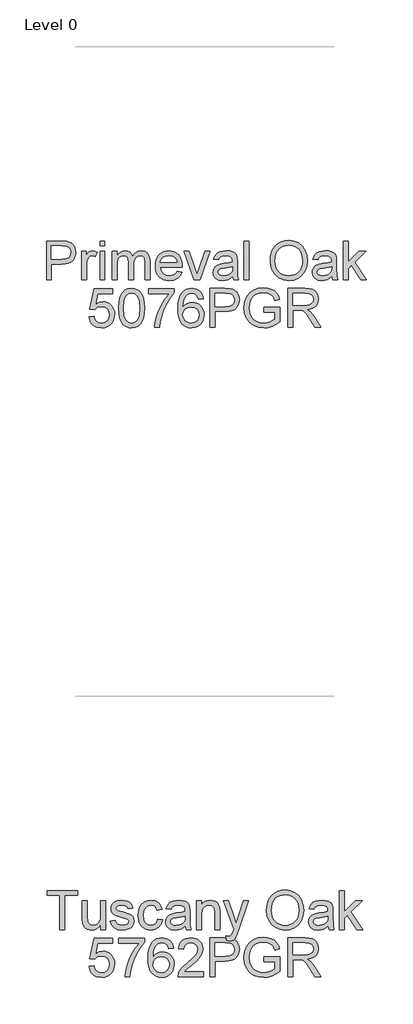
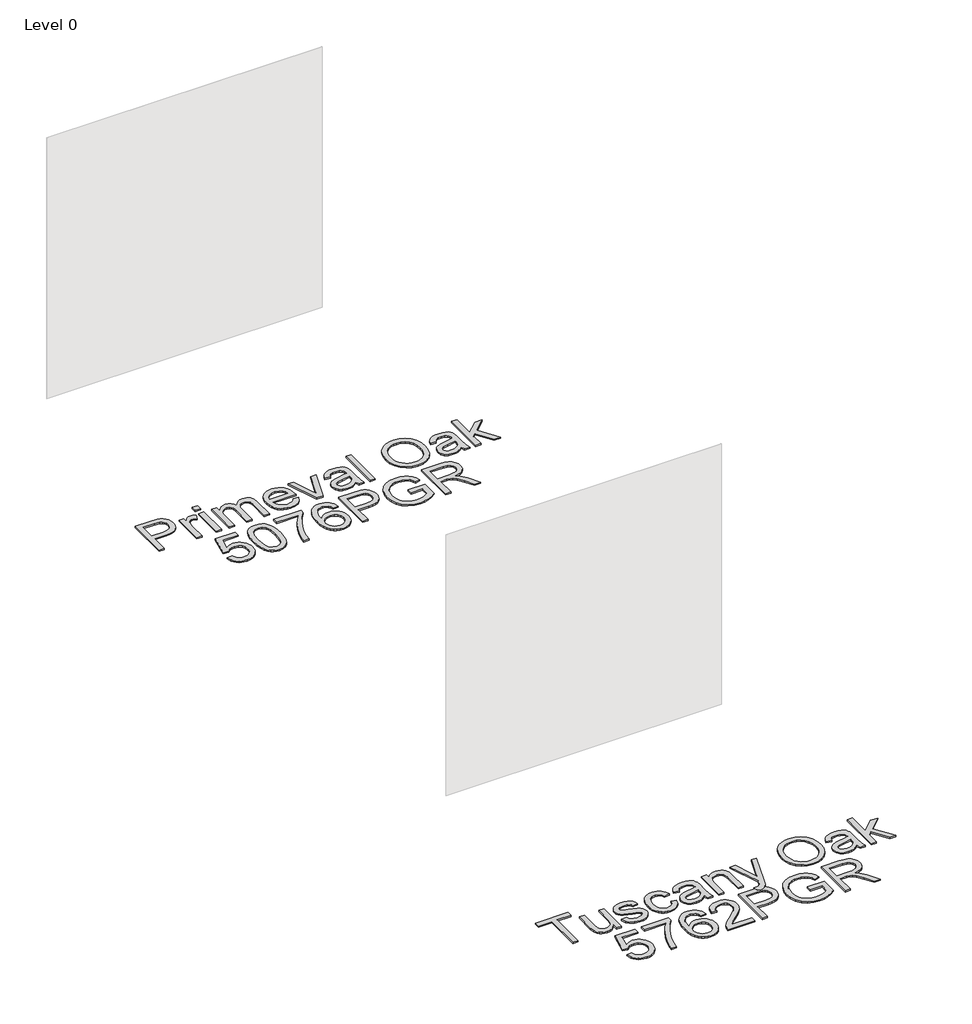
# One storey, part 18 of 43: 2 proxies.
"""IFC4 building model written with IfcOpenShell, lengths in millimetres."""

from ifc_helpers import new_model, si_unit, origin, origin_with_axes, place, context, project, spatial, polyline, outline, extrude, element, save

model = new_model("IFC4")

# Units and contexts
model_context = context("Model", 3, world=origin())
ifc_project = project(units=[si_unit("LENGTHUNIT", "METRE", prefix="MILLI")], contexts=[model_context])

# Site, building, storey
site = spatial("IfcSite", under=ifc_project)
building = spatial("IfcBuilding", under=site)
storey = spatial("IfcBuildingStorey", under=building, Name="Level 0", Elevation=0.0)

# Proxies
placement = place(None, origin())
element("IfcBuildingElementProxy", 1, Name="300mm Arial", ObjectType="300mm Arial", at=placement, inside=storey, context=model_context, shape_type="SweptSolid", body=[
    extrude(outline(polyline([(16325.0306637, -37005.860494), (16325.0306637, -36704.4915635), (16436.7196375, -36704.4915635), (16481.7483937, -36707.3610431), (16501.8255536, -36712.7229232), (16518.3526522, -36721.4509235), (16531.6607834, -36733.9405172), (16542.0810409, -36750.5871775), (16548.8132814, -36770.222879), (16551.0573616, -36791.6795964), (16549.5421476, -36810.1794622), (16544.9965057, -36827.198603), (16537.4204359, -36842.7370188), (16526.8139381, -36856.7947095), (16512.2527089, -36868.4473717), (16492.8124447, -36876.7707019), (16468.4931456, -36881.7647), (16439.2948114, -36883.429366), (16362.7017801, -36883.429366), (16362.7017801, -37005.860494), (16325.0306637, -37005.860494)]), holes=[polyline([(16362.7017801, -36845.7582497), (16441.5021034, -36845.7582497), (16474.9057886, -36842.3001589), (16496.9787083, -36831.9258867), (16509.284361, -36815.2792264), (16513.3862453, -36793.0039716), (16510.9674212, -36776.0813998), (16503.7109488, -36761.8075784), (16492.5181391, -36751.0654241), (16478.2903029, -36744.7378538), (16440.6191866, -36742.1626798), (16362.7017801, -36742.1626798), (16362.7017801, -36845.7582497)])]), origin_with_axes(), (0.0, 0.0, 1.0), 10.0),
    extrude(outline(polyline([(16598.146257, -37005.860494), (16598.146257, -36784.5426857), (16631.1084837, -36784.5426857), (16631.1084837, -36817.2841833), (16643.2853778, -36798.3014723), (16654.5057786, -36787.1178596), (16665.7629677, -36781.654812), (16678.0502263, -36779.8337961), (16696.8122081, -36782.7400639), (16715.8684954, -36791.4588672), (16703.2869312, -36825.2304343), (16690.0431794, -36819.4362929), (16676.7994275, -36817.5049125), (16665.5514355, -36819.3627165), (16655.49906, -36824.9361288), (16647.378065, -36833.8020848), (16641.9242144, -36845.5375205), (16637.3440835, -36866.5803706), (16635.8173733, -36889.5362071), (16635.8173733, -37005.860494), (16598.146257, -37005.860494)])), origin_with_axes(), (0.0, 0.0, 1.0), 10.0),
    extrude(outline(polyline([(16739.4129431, -37005.860494), (16739.4129431, -36784.5426857), (16777.0840594, -36784.5426857), (16777.0840594, -37005.860494), (16739.4129431, -37005.860494)])), origin_with_axes(), (0.0, 0.0, 1.0), 10.0),
    extrude(outline(polyline([(16739.4129431, -36742.1626798), (16739.4129431, -36704.4915635), (16777.0840594, -36704.4915635), (16777.0840594, -36742.1626798), (16739.4129431, -36742.1626798)])), origin_with_axes(), (0.0, 0.0, 1.0), 10.0),
    extrude(outline(polyline([(16833.5907339, -37005.860494), (16833.5907339, -36784.5426857), (16871.2618502, -36784.5426857), (16871.2618502, -36820.9630032), (16882.5926156, -36804.2335695), (16897.1607426, -36791.1277734), (16914.4695905, -36782.6572905), (16934.0225186, -36779.8337961), (16954.9733982, -36782.7124728), (16971.7672113, -36791.3485026), (16984.3119873, -36805.1716686), (16992.5157558, -36823.6117536), (17006.2469513, -36804.4588972), (17021.9095272, -36790.7782855), (17039.5034836, -36782.5699185), (17059.0288205, -36779.8337961), (17087.3465371, -36784.3863358), (17108.2882197, -36798.0439549), (17121.2284689, -36821.1745354), (17125.5418852, -36854.1459592), (17125.5418852, -37005.860494), (17087.8707689, -37005.860494), (17087.8707689, -36870.332767), (17084.37589, -36838.8788564), (17079.4646654, -36830.2060383), (17071.7207494, -36823.3910244), (17061.7603443, -36818.9764404), (17050.1996526, -36817.5049125), (17029.791399, -36821.2757029), (17013.1539357, -36832.5880743), (17002.0898847, -36852.2145787), (16998.4018677, -36880.9277684), (16998.4018677, -37005.860494), (16960.7307514, -37005.860494), (16960.7307514, -36866.1389122), (16958.5510506, -36844.8385447), (16952.0119481, -36829.6450183), (16940.5064387, -36820.5399389), (16923.4275171, -36817.5049125), (16908.9145724, -36819.5282634), (16895.5420619, -36825.5983163), (16884.505602, -36835.5679184), (16877.0008093, -36849.2899168), (16872.69659, -36868.3278101), (16871.2618502, -36894.2450966), (16871.2618502, -37005.860494), (16833.5907339, -37005.860494)])), origin_with_axes(), (0.0, 0.0, 1.0), 10.0),
    extrude(outline(polyline([(17337.0004561, -36939.9360404), (17373.9358084, -36944.64493), (17360.6276772, -36972.4752029), (17339.391689, -36993.2789297), (17310.7060905, -37006.2467701), (17275.0491281, -37010.5693835), (17251.6748258, -37008.7046817), (17230.8481064, -37003.1105761), (17212.5689697, -36993.7870668), (17196.8374159, -36980.7341537), (17184.1868738, -36964.3151204), (17175.1507723, -36944.8932503), (17169.7291114, -36922.4685435), (17167.9218911, -36897.0409998), (17169.7475055, -36870.7512327), (17175.2243487, -36847.5792656), (17184.3524207, -36827.5250983), (17197.1317215, -36810.5887309), (17212.8218886, -36797.133447), (17230.6825595, -36787.5225298), (17250.7137341, -36781.7559796), (17272.9154125, -36779.8337961), (17294.4020203, -36781.751381), (17313.8330874, -36787.5041357), (17331.2086139, -36797.0920602), (17346.5285998, -36810.5151545), (17359.0342883, -36827.4147337), (17367.966923, -36847.4321128), (17373.3265038, -36870.5672917), (17375.1130308, -36896.8202706), (17374.8923016, -36906.9738137), (17205.5930074, -36906.9738137), (17212.1137158, -36935.1719686), (17227.2612569, -36955.902119), (17249.1226445, -36968.6492302), (17275.7848921, -36972.8982672), (17295.8344608, -36970.9300985), (17312.7202444, -36965.0255925), (17326.4422428, -36954.8168672), (17337.0004561, -36939.9360404)]), holes=[polyline([(17205.5930074, -36869.3026974), (17337.4419145, -36869.3026974), (17332.3467488, -36849.4002814), (17322.3587527, -36835.1632482), (17300.3961976, -36821.9194964), (17272.7682597, -36817.5049125), (17247.375205, -36821.0273826), (17226.3783401, -36831.5947929), (17211.782622, -36848.0667092), (17205.5930074, -36869.3026974)])]), origin_with_axes(), (0.0, 0.0, 1.0), 10.0),
    extrude(outline(polyline([(17467.0835296, -37005.860494), (17389.2396994, -36784.5426857), (17429.1181077, -36784.5426857), (17476.2805795, -36917.1273567), (17490.4808245, -36961.7146546), (17504.3867639, -36919.6289543), (17551.8435413, -36784.5426857), (17591.7219495, -36784.5426857), (17514.8346125, -37005.860494), (17467.0835296, -37005.860494)])), origin_with_axes(), (0.0, 0.0, 1.0), 10.0),
    extrude(outline(polyline([(17765.9508625, -36977.6071568), (17747.9522358, -36993.0398064), (17729.4201803, -37003.1381672), (17709.9316316, -37008.7115794), (17689.0635255, -37010.5693835), (17657.5820237, -37006.0996173), (17634.3594728, -36992.6903186), (17620.0396661, -36972.3280501), (17615.2663972, -36946.9993748), (17617.069019, -36931.3827841), (17622.4768843, -36917.2009331), (17630.8186086, -36905.0608273), (17641.4228071, -36895.5694718), (17667.7999461, -36883.2086368), (17700.3942909, -36877.5432541), (17738.9115358, -36871.5835657), (17765.7301333, -36864.5938078), (17765.9508625, -36856.2060983), (17763.3572944, -36839.3938912), (17755.5765902, -36828.3942195), (17738.1757718, -36820.2272392), (17713.9323483, -36817.5049125), (17691.4915466, -36819.3167313), (17675.8197736, -36824.7521878), (17665.1328017, -36834.8045633), (17657.6464031, -36850.4671392), (17619.9752868, -36845.7582497), (17626.5143892, -36825.156858), (17636.2724592, -36808.9700502), (17650.1600045, -36796.590821), (17669.0875331, -36787.4121652), (17692.2365077, -36781.7283884), (17718.7883907, -36779.8337961), (17744.2550218, -36781.5076592), (17764.4425463, -36786.5292485), (17779.6636638, -36794.0800264), (17790.2310741, -36803.3414556), (17797.2392261, -36814.7917827), (17801.7825688, -36828.9092543), (17803.6219788, -36861.8714811), (17803.6219788, -36908.7396473), (17805.5349651, -36974.1858542), (17813.0397578, -37005.860494), (17775.3686415, -37005.860494), (17765.9508625, -36977.6071568)]), holes=[polyline([(17765.9508625, -36902.2649241), (17705.1767568, -36913.8164188), (17672.7663531, -36919.9232599), (17658.0878615, -36929.8560738), (17652.9375135, -36944.3506244), (17655.7426137, -36955.5526311), (17664.1579144, -36964.7312869), (17677.9994745, -36970.8565221), (17697.083353, -36972.8982672), (17717.3168627, -36970.64499), (17735.1959277, -36963.8851583), (17749.6904783, -36953.9247533), (17759.7704449, -36942.069756), (17764.2402112, -36929.8560738), (17765.7301333, -36912.933502), (17765.9508625, -36902.2649241)])]), origin_with_axes(), (0.0, 0.0, 1.0), 10.0),
    extrude(outline(polyline([(17855.4197637, -37005.860494), (17855.4197637, -36704.4915635), (17893.09088, -36704.4915635), (17893.09088, -37005.860494), (17855.4197637, -37005.860494)])), origin_with_axes(), (0.0, 0.0, 1.0), 10.0),
    extrude(outline(polyline([(18057.9020138, -36859.1491543), (18060.4128084, -36823.8002931), (18067.9451923, -36792.5073309), (18080.4991654, -36765.2702677), (18098.0747277, -36742.0891034), (18119.618817, -36723.5800406), (18144.0783712, -36710.3592814), (18171.4533902, -36702.4268258), (18201.7438739, -36699.782674), (18241.2727943, -36704.7490809), (18276.7182246, -36719.6483017), (18306.1487842, -36743.4318727), (18327.6330927, -36775.0513302), (18340.7664799, -36812.9799639), (18345.1442757, -36855.6910636), (18340.5365537, -36898.9723803), (18326.7133877, -36937.4344429), (18304.4381329, -36969.1090827), (18274.4741444, -36992.028131), (18239.3322168, -37005.9340704), (18201.5231447, -37010.5693835), (18161.3872191, -37005.4466267), (18125.7394537, -36990.0783564), (18096.3824705, -36965.853327), (18075.1188912, -36934.1602931), (18062.2062332, -36897.6939903), (18057.9020138, -36859.1491543)]), holes=[polyline([(18095.5731301, -36859.5170363), (18097.4562261, -36884.4916252), (18103.105514, -36906.661114), (18112.5209938, -36926.0255025), (18125.7026655, -36942.5847908), (18141.7262257, -36955.8469367), (18159.6673707, -36965.3198981), (18179.5261007, -36971.0036749), (18201.3024155, -36972.8982672), (18223.4512109, -36970.9852808), (18243.5444656, -36965.2463217), (18261.5821797, -36955.6813898), (18277.5643531, -36942.2904852), (18290.6494559, -36925.381709), (18299.9959578, -36905.2631624), (18305.603859, -36881.9348454), (18307.4731594, -36855.396758), (18304.272586, -36822.0482551), (18294.6708659, -36793.2247008), (18278.9163195, -36769.6526619), (18257.257267, -36752.0587055), (18231.1284483, -36741.1050191), (18201.9646031, -36737.4537903), (18180.9447456, -36739.2127261), (18161.4424014, -36744.4895335), (18143.4575703, -36753.2842124), (18126.9902525, -36765.5967629), (18113.2452615, -36782.0203948), (18103.4274107, -36803.1483176), (18097.5367003, -36828.9805314), (18095.5731301, -36859.5170363)])]), origin_with_axes(), (0.0, 0.0, 1.0), 10.0),
    extrude(outline(polyline([(18533.4998572, -36977.6071568), (18515.5012306, -36993.0398064), (18496.9691751, -37003.1381672), (18477.4806264, -37008.7115794), (18456.6125202, -37010.5693835), (18425.1310185, -37006.0996173), (18401.9084675, -36992.6903186), (18387.5886609, -36972.3280501), (18382.815392, -36946.9993748), (18384.6180137, -36931.3827841), (18390.0258791, -36917.2009331), (18398.3676033, -36905.0608273), (18408.9718018, -36895.5694718), (18435.3489409, -36883.2086368), (18467.9432856, -36877.5432541), (18506.4605305, -36871.5835657), (18533.279128, -36864.5938078), (18533.4998572, -36856.2060983), (18530.9062891, -36839.3938912), (18523.1255849, -36828.3942195), (18505.7247666, -36820.2272392), (18481.4813431, -36817.5049125), (18459.0405414, -36819.3167313), (18443.3687684, -36824.7521878), (18432.6817964, -36834.8045633), (18425.1953978, -36850.4671392), (18387.5242815, -36845.7582497), (18394.063384, -36825.156858), (18403.8214539, -36808.9700502), (18417.7089992, -36796.590821), (18436.6365279, -36787.4121652), (18459.7855024, -36781.7283884), (18486.3373854, -36779.8337961), (18511.8040165, -36781.5076592), (18531.991541, -36786.5292485), (18547.2126586, -36794.0800264), (18557.7800689, -36803.3414556), (18564.7882209, -36814.7917827), (18569.3315635, -36828.9092543), (18571.1709735, -36861.8714811), (18571.1709735, -36908.7396473), (18573.0839599, -36974.1858542), (18580.5887526, -37005.860494), (18542.9176363, -37005.860494), (18533.4998572, -36977.6071568)]), holes=[polyline([(18533.4998572, -36902.2649241), (18472.7257516, -36913.8164188), (18440.3153478, -36919.9232599), (18425.6368562, -36929.8560738), (18420.4865083, -36944.3506244), (18423.2916085, -36955.5526311), (18431.7069091, -36964.7312869), (18445.5484692, -36970.8565221), (18464.6323477, -36972.8982672), (18484.8658574, -36970.64499), (18502.7449224, -36963.8851583), (18517.239473, -36953.9247533), (18527.3194397, -36942.069756), (18531.7892059, -36929.8560738), (18533.279128, -36912.933502), (18533.4998572, -36902.2649241)])]), origin_with_axes(), (0.0, 0.0, 1.0), 10.0),
    extrude(outline(polyline([(18622.9687584, -37005.860494), (18622.9687584, -36704.4915635), (18660.6398747, -36704.4915635), (18660.6398747, -36866.4332178), (18745.1055808, -36784.5426857), (18797.1976713, -36784.5426857), (18711.7018957, -36867.4632874), (18801.9065609, -37005.860494), (18757.9078742, -37005.860494), (18684.6993572, -36893.6564855), (18660.6398747, -36916.9802039), (18660.6398747, -37005.860494), (18622.9687584, -37005.860494)])), origin_with_axes(), (0.0, 0.0, 1.0), 10.0),
    extrude(outline(polyline([(16654.6529314, -37291.7338254), (16692.3240477, -37287.0249358), (16699.2402292, -37309.6404815), (16711.3067587, -37325.8364863), (16728.4684538, -37335.5761621), (16750.6701322, -37338.8227207), (16777.6726706, -37334.3069693), (16797.9061803, -37320.7597148), (16810.5429269, -37299.7444558), (16814.7551757, -37272.8246908), (16810.8096413, -37247.4776213), (16798.9730381, -37228.0902402), (16779.1533956, -37215.7845875), (16751.2587434, -37211.6827032), (16732.9842052, -37213.3197781), (16718.186152, -37218.2310027), (16697.0329373, -37235.2271509), (16659.361821, -37230.5182614), (16692.3240477, -37075.1249066), (16838.2996234, -37075.1249066), (16838.2996234, -37112.7960229), (16722.7846769, -37112.7960229), (16706.6714455, -37195.790201), (16733.5820135, -37179.4562404), (16761.7801684, -37174.0115869), (16780.1259837, -37175.6992456), (16796.9772783, -37180.7622215), (16812.3340523, -37189.2005148), (16826.1963058, -37201.0141254), (16837.6719248, -37215.4810848), (16845.8687955, -37231.8794248), (16850.7869179, -37250.2091452), (16852.426292, -37270.470246), (16846.521786, -37308.1413624), (16839.1411535, -37324.9351754), (16828.8082679, -37340.3678251), (16813.154889, -37356.1729553), (16794.889548, -37367.4623341), (16774.0122448, -37374.2359613), (16750.5229794, -37376.4938371), (16713.5232477, -37370.6904986), (16697.8445769, -37363.4363255), (16684.0467028, -37353.2804832), (16672.5664853, -37340.7288093), (16663.8407843, -37326.2871418), (16654.6529314, -37291.7338254)])), origin_with_axes(), (0.0, 0.0, 1.0), 10.0),
    extrude(outline(polyline([(16885.3885188, -37223.5285035), (16888.1568308, -37175.2899768), (16896.4617669, -37136.8187172), (16910.2205535, -37107.5261133), (16929.3504172, -37086.8235541), (16953.9893138, -37074.5179013), (16984.2751991, -37070.4160171), (17007.488553, -37072.8440382), (17028.2738857, -37080.1281017), (17045.65631, -37091.983099), (17058.6609385, -37108.1239216), (17068.4833878, -37128.4126136), (17076.3192743, -37152.7112194), (17081.4512281, -37183.5673217), (17083.1618794, -37223.5285035), (17080.4211585, -37271.4911186), (17072.1989959, -37309.8704077), (17058.5229828, -37339.1906027), (17039.4207102, -37359.9759355), (17014.7266313, -37372.3643617), (16984.2751991, -37376.4938371), (16963.5266546, -37374.7004123), (16945.1325548, -37369.3201381), (16929.0928998, -37360.3530145), (16915.4076896, -37347.7990414), (16902.2743024, -37325.1053209), (16892.8933115, -37296.828991), (16887.264717, -37262.9700519), (16885.3885188, -37223.5285035)]), holes=[polyline([(16923.0596351, -37223.4549271), (16927.474219, -37282.7115194), (16932.992449, -37302.9795181), (16940.7179709, -37317.0073184), (16960.4364458, -37333.3688702), (16984.2751991, -37338.8227207), (17008.1139524, -37333.3504761), (17027.8324273, -37316.933742), (17035.5579492, -37302.8829491), (17041.0761792, -37282.6195489), (17045.4907631, -37223.4549271), (17041.223332, -37165.5319069), (17035.889043, -37145.3305869), (17028.4210385, -37130.9693935), (17008.7393518, -37113.8076984), (16983.8337407, -37108.0871334), (16960.2525048, -37113.1271167), (16941.3065821, -37128.2470667), (16933.3235428, -37143.8820515), (16927.6213718, -37164.9616898), (16923.0596351, -37223.4549271)])]), origin_with_axes(), (0.0, 0.0, 1.0), 10.0),
    extrude(outline(polyline([(17116.1241062, -37112.7960229), (17116.1241062, -37075.1249066), (17313.8974668, -37075.1249066), (17313.8974668, -37105.5855358), (17285.7085089, -37141.2608923), (17257.7954625, -37186.6299393), (17233.17496, -37237.5540045), (17214.8636337, -37289.8944154), (17205.887313, -37329.0554538), (17200.8841179, -37371.7849475), (17163.2130016, -37371.7849475), (17167.2872947, -37332.9550029), (17178.1857988, -37286.8042066), (17195.6142083, -37237.8850983), (17219.2782176, -37190.7502177), (17246.9061555, -37148.1402856), (17276.2263505, -37112.7960229), (17116.1241062, -37112.7960229)])), origin_with_axes(), (0.0, 0.0, 1.0), 10.0),
    extrude(outline(polyline([(17539.9241646, -37150.4671392), (17502.2530483, -37155.1760288), (17496.1829954, -37136.5060175), (17487.9792269, -37123.7589064), (17470.8911082, -37112.0050766), (17450.2345342, -37108.0871334), (17432.7233512, -37110.3680017), (17416.2422378, -37117.2106069), (17402.0879781, -37131.622384), (17390.5272864, -37151.4604206), (17382.718991, -37179.5206198), (17379.8219203, -37218.5988847), (17394.9326733, -37200.9681401), (17413.0416645, -37188.5429257), (17433.1372185, -37181.1760888), (17454.2076597, -37178.7204764), (17472.3074539, -37180.3989381), (17489.0092965, -37185.4343229), (17504.3131875, -37193.8266309), (17518.2191269, -37205.5758621), (17529.7752201, -37219.9830407), (17538.0295723, -37236.349191), (17542.9821837, -37254.6743129), (17544.6330542, -37274.9584064), (17541.5244513, -37301.9333537), (17532.1986427, -37326.9401323), (17517.4281806, -37348.1485293), (17497.9856172, -37363.7283318), (17474.7538692, -37373.3024607), (17448.6158534, -37376.4938371), (17426.1589569, -37374.3785156), (17405.8771626, -37368.0325512), (17387.7704707, -37357.4559438), (17371.838881, -37342.6486935), (17358.8503473, -37322.9854009), (17349.5728233, -37297.8406665), (17344.0063088, -37267.2144904), (17342.150804, -37231.1068726), (17344.2109432, -37190.6260575), (17350.3913607, -37156.0773396), (17360.6920566, -37127.4607189), (17375.1130308, -37104.7761954), (17390.743417, -37089.7436174), (17408.8662038, -37079.0060617), (17429.4813911, -37072.5635282), (17452.588979, -37070.4160171), (17485.6431762, -37075.7319119), (17512.1122858, -37091.6795964), (17530.6535383, -37117.0082718), (17539.9241646, -37150.4671392)]), holes=[polyline([(17379.8219203, -37274.3697952), (17382.0016211, -37291.0624407), (17388.5407236, -37307.0009282), (17398.6942667, -37320.7045325), (17411.7172893, -37330.6925287), (17427.4350475, -37336.7901727), (17445.6727975, -37338.8227207), (17470.5324233, -37334.6104719), (17490.0761543, -37321.9737254), (17502.740492, -37302.1080976), (17506.9619378, -37276.2092052), (17502.7956743, -37251.3495793), (17490.2968835, -37232.3944595), (17470.4220587, -37220.3923095), (17444.1276931, -37216.3915928), (17419.3048554, -37220.3923095), (17398.5471139, -37232.3944595), (17384.5032187, -37250.8897269), (17379.8219203, -37274.3697952)])]), origin_with_axes(), (0.0, 0.0, 1.0), 10.0),
    extrude(outline(polyline([(17591.7219495, -37371.7849475), (17591.7219495, -37070.4160171), (17703.4109233, -37070.4160171), (17748.4396795, -37073.2854966), (17768.5168394, -37078.6473767), (17785.043938, -37087.375377), (17798.3520692, -37099.8649708), (17808.7723267, -37116.5116311), (17815.5045672, -37136.1473326), (17817.7486474, -37157.6040499), (17816.2334334, -37176.1039158), (17811.6877915, -37193.1230566), (17804.1117217, -37208.6614723), (17793.5052239, -37222.7191631), (17778.9439947, -37234.3718253), (17759.5037305, -37242.6951554), (17735.1844313, -37247.6891535), (17705.9860972, -37249.3538195), (17629.3930658, -37249.3538195), (17629.3930658, -37371.7849475), (17591.7219495, -37371.7849475)]), holes=[polyline([(17629.3930658, -37211.6827032), (17708.1933892, -37211.6827032), (17741.5970744, -37208.2246125), (17763.6699941, -37197.8503402), (17775.9756468, -37181.2036799), (17780.0775311, -37158.9284251), (17777.6587069, -37142.0058533), (17770.4022346, -37127.7320319), (17759.2094249, -37116.9898777), (17744.9815887, -37110.6623073), (17707.3104724, -37108.0871334), (17629.3930658, -37108.0871334), (17629.3930658, -37211.6827032)])]), origin_with_axes(), (0.0, 0.0, 1.0), 10.0),
    extrude(outline(polyline([(18010.8131184, -37254.0627091), (18010.8131184, -37216.3915928), (18133.2442464, -37216.3915928), (18133.2442464, -37329.0370597), (18103.4917901, -37349.7304219), (18072.8012346, -37364.5744604), (18041.2461565, -37373.5139929), (18008.9001321, -37376.4938371), (17966.6396879, -37371.7573564), (17928.4443397, -37357.5479143), (17896.7145176, -37334.3621516), (17873.8506516, -37302.6967088), (17860.0274857, -37264.7128928), (17855.4197637, -37222.5720103), (17860.0090916, -37180.1276251), (17873.7770752, -37140.6446899), (17896.1534976, -37107.5261133), (17926.5681415, -37084.1748037), (17963.6138585, -37070.3240466), (18005.8834997, -37065.7071275), (18036.914346, -37068.383469), (18064.8181953, -37076.4124936), (18088.3166578, -37089.214787), (18106.1313434, -37106.2109352), (18119.3107159, -37128.2194756), (18128.9032389, -37156.0589455), (18094.1751785, -37165.8446066), (18086.4220655, -37145.9881759), (18076.9950894, -37131.0061817), (18064.5238897, -37119.7122044), (18047.6381062, -37110.9198247), (18027.505764, -37105.2636391), (18005.2948885, -37103.3782438), (17979.2948285, -37105.4107919), (17957.0655589, -37111.5084359), (17938.6898533, -37120.9078209), (17924.250485, -37132.8455916), (17904.8631038, -37161.8714811), (17896.0339359, -37190.3087593), (17893.09088, -37221.0269059), (17896.6317442, -37257.0517503), (17907.2543368, -37286.693842), (17924.6367611, -37309.741649), (17948.4571203, -37325.9836391), (17976.3333784, -37335.6129503), (18005.8834997, -37338.8227207), (18031.9755302, -37336.4038966), (18057.4237672, -37329.1474243), (18079.5242781, -37319.1502311), (18095.5731301, -37308.5092443), (18095.5731301, -37254.0627091), (18010.8131184, -37254.0627091)])), origin_with_axes(), (0.0, 0.0, 1.0), 10.0),
    extrude(outline(polyline([(18194.4598104, -37371.7849475), (18194.4598104, -37070.4160171), (18324.3221547, -37070.4160171), (18359.224959, -37072.4485651), (18384.6180137, -37078.5462092), (18403.1776604, -37089.8033982), (18417.5802405, -37107.3145812), (18426.8232756, -37129.0288159), (18429.9042873, -37152.8951604), (18424.7999247, -37182.5832374), (18409.4868366, -37207.1945429), (18397.8870575, -37217.2239258), (18383.5051707, -37225.2391547), (18346.3950744, -37235.2271509), (18367.8058066, -37251.3403823), (18398.3400122, -37290.1151446), (18448.5926927, -37371.7849475), (18404.8147353, -37371.7849475), (18365.5985146, -37309.3185847), (18337.271601, -37267.9686485), (18317.369185, -37248.4341145), (18299.4533319, -37241.2604156), (18277.6011413, -37239.9360404), (18232.1309267, -37239.9360404), (18232.1309267, -37371.7849475), (18194.4598104, -37371.7849475)]), holes=[polyline([(18232.1309267, -37202.2649241), (18316.44948, -37202.2649241), (18340.6653124, -37200.9313519), (18359.4548853, -37196.9306352), (18373.599948, -37189.9960596), (18383.8822498, -37179.8609106), (18390.1454407, -37167.6012431), (18392.233171, -37154.293112), (18388.2508484, -37135.9174063), (18376.3038807, -37121.110156), (18355.7484742, -37111.342889), (18325.9408355, -37108.0871334), (18232.1309267, -37108.0871334), (18232.1309267, -37202.2649241)])]), origin_with_axes(), (0.0, 0.0, 1.0), 10.0),
])
element("IfcBuildingElementProxy", 2, Name="300mm Arial", ObjectType="300mm Arial", at=placement, inside=storey, context=model_context, shape_type="SweptSolid", body=[
    extrude(outline(polyline([(16428.6262336, -42030.0303751), (16428.6262336, -41766.332561), (16329.7395533, -41766.332561), (16329.7395533, -41728.6614447), (16565.1840302, -41728.6614447), (16565.1840302, -41766.332561), (16466.2973499, -41766.332561), (16466.2973499, -42030.0303751), (16428.6262336, -42030.0303751)])), origin_with_axes(), (0.0, 0.0, 1.0), 10.0),
    extrude(outline(polyline([(16744.1218326, -42030.0303751), (16744.1218326, -41991.9913768), (16730.4918047, -42010.6935777), (16714.6176966, -42024.0522927), (16696.4995084, -42032.0675217), (16676.1372399, -42034.7392647), (16657.7891254, -42032.8630665), (16640.7102038, -42027.234472), (16626.3812001, -42018.7731861), (16616.2828393, -42008.3989138), (16605.0624385, -41980.6606114), (16602.8551465, -41945.6382454), (16602.8551465, -41808.7125668), (16640.5262628, -41808.7125668), (16640.5262628, -41927.9063333), (16642.8071312, -41966.3132136), (16648.29777, -41979.124704), (16657.706352, -41988.8643799), (16670.4074779, -41995.0172062), (16685.7757482, -41997.0681484), (16702.0269354, -41994.971221), (16717.2296588, -41988.6804389), (16729.7652378, -41978.7752161), (16738.0149915, -41965.834967), (16742.5951224, -41948.1122518), (16744.1218326, -41923.8596313), (16744.1218326, -41808.7125668), (16781.792949, -41808.7125668), (16781.792949, -42030.0303751), (16744.1218326, -42030.0303751)])), origin_with_axes(), (0.0, 0.0, 1.0), 10.0),
    extrude(outline(polyline([(16819.4640653, -41964.1059216), (16857.1351816, -41959.397032), (16863.0764758, -41975.5102634), (16874.5727881, -41987.3560637), (16891.697695, -41994.6401272), (16914.5247728, -41997.0681484), (16937.0759391, -41994.8424623), (16952.9316531, -41988.1654041), (16962.312644, -41978.4901076), (16965.4396409, -41967.2697067), (16962.2942499, -41957.6679867), (16952.8580767, -41950.347135), (16914.0833144, -41939.6049807), (16857.3559108, -41921.1740927), (16842.9993159, -41911.9126635), (16832.5974525, -41899.652996), (16826.2790792, -41885.1768395), (16824.1729548, -41869.2659432), (16825.865212, -41854.6702251), (16830.9419835, -41841.196547), (16838.9434169, -41829.3783379), (16849.4096597, -41819.7490267), (16873.3587776, -41808.6022022), (16905.7691813, -41804.0036773), (16930.2885163, -41805.8522843), (16951.6072779, -41811.3981054), (16968.7505789, -41820.0985146), (16980.7435319, -41831.4108859), (16988.689783, -41846.172151), (16993.6929782, -41865.2192413), (16956.0218619, -41869.9281308), (16951.2669871, -41858.0731335), (16941.8584051, -41849.1427981), (16927.7041453, -41843.5417947), (16908.7122373, -41841.6747936), (16887.080776, -41843.4590213), (16872.6598018, -41848.8117043), (16864.5480038, -41856.5372262), (16861.8440711, -41865.4399705), (16866.3322314, -41876.4028539), (16880.3853237, -41884.716987), (16912.8325156, -41892.7368145), (16968.1251795, -41910.4687267), (16982.7300947, -41918.9484067), (16993.8033428, -41930.5550836), (17000.7839036, -41945.3255457), (17003.1107573, -41963.2965812), (17000.3792334, -41981.874622), (16992.184662, -41999.3490167), (16978.8397426, -42014.3494051), (16960.657175, -42025.5054266), (16938.6946199, -42032.4308051), (16914.009738, -42034.7392647), (16876.025922, -42030.2878925), (16848.3060137, -42016.9337761), (16829.8015493, -41994.8240682), (16819.4640653, -41964.1059216)])), origin_with_axes(), (0.0, 0.0, 1.0), 10.0),
    extrude(outline(polyline([(17186.7574492, -41949.979253), (17224.4285656, -41954.6881425), (17213.9255346, -41988.1929952), (17194.1886655, -42013.5124735), (17167.0757625, -42029.4325669), (17134.4446295, -42034.7392647), (17113.3167067, -42032.8883584), (17094.3730832, -42027.3356395), (17077.6137591, -42018.0811081), (17063.0387343, -42005.124764), (17051.2412185, -41988.7103293), (17042.8144216, -41969.0815256), (17037.7583434, -41946.2383529), (17036.072984, -41920.1808114), (17038.9516606, -41886.6575646), (17047.5876905, -41857.604084), (17062.1190293, -41834.1424097), (17082.6836328, -41817.3945819), (17107.2857412, -41807.3514034), (17133.9295947, -41804.0036773), (17165.7605844, -41808.6022022), (17191.2088214, -41822.397777), (17209.4649654, -41844.6546378), (17219.719676, -41874.6370204), (17182.0485597, -41879.3459099), (17175.2151516, -41862.9107818), (17164.5741649, -41851.1293609), (17150.7142108, -41844.0384354), (17134.2239003, -41841.6747936), (17109.8793093, -41846.3285008), (17090.5563075, -41860.2896225), (17077.9471521, -41884.3123168), (17073.7441003, -41919.1507418), (17077.8551816, -41954.4582163), (17090.1884255, -41978.563684), (17109.1619394, -41992.4420323), (17133.1938307, -41997.0681484), (17152.7007735, -41994.1802747), (17168.6944433, -41985.5166537), (17180.3287114, -41970.8565562), (17186.7574492, -41949.979253)])), origin_with_axes(), (0.0, 0.0, 1.0), 10.0),
    extrude(outline(polyline([(17398.6574785, -42001.7770379), (17380.6588519, -42017.2096876), (17362.1267963, -42027.3080484), (17342.6382477, -42032.8814606), (17321.7701415, -42034.7392647), (17290.2886397, -42030.2694984), (17267.0660888, -42016.8601997), (17252.7462821, -41996.4979313), (17247.9730132, -41971.1692559), (17249.775635, -41955.5526652), (17255.1835003, -41941.3708143), (17263.5252246, -41929.2307084), (17274.1294231, -41919.739353), (17300.5065622, -41907.3785179), (17333.1009069, -41901.7131352), (17371.6181518, -41895.7534469), (17398.4367493, -41888.763689), (17398.6574785, -41880.3759795), (17396.0639104, -41863.5637723), (17388.2832062, -41852.5641006), (17370.8823878, -41844.3971204), (17346.6389644, -41841.6747936), (17324.1981626, -41843.4866124), (17308.5263896, -41848.9220689), (17297.8394177, -41858.9744444), (17290.3530191, -41874.6370204), (17252.6819028, -41869.9281308), (17259.2210052, -41849.3267391), (17268.9790752, -41833.1399313), (17282.8666205, -41820.7607022), (17301.7941491, -41811.5820464), (17324.9431237, -41805.8982696), (17351.4950067, -41804.0036773), (17376.9616378, -41805.6775404), (17397.1491623, -41810.6991296), (17412.3702798, -41818.2499075), (17422.9376901, -41827.5113368), (17429.9458422, -41838.9616639), (17434.4891848, -41853.0791354), (17436.3285948, -41886.0413622), (17436.3285948, -41932.9095284), (17438.2415811, -41998.3557353), (17445.7463739, -42030.0303751), (17408.0752575, -42030.0303751), (17398.6574785, -42001.7770379)]), holes=[polyline([(17398.6574785, -41926.4348053), (17337.8833729, -41937.9862999), (17305.4729691, -41944.093141), (17290.7944775, -41954.0259549), (17285.6441295, -41968.5205055), (17288.4492298, -41979.7225123), (17296.8645304, -41988.9011681), (17310.7060905, -41995.0264033), (17329.789969, -41997.0681484), (17350.0234787, -41994.8148711), (17367.9025437, -41988.0550395), (17382.3970943, -41978.0946345), (17392.4770609, -41966.2396372), (17396.9468272, -41954.0259549), (17398.4367493, -41937.1033831), (17398.6574785, -41926.4348053)])]), origin_with_axes(), (0.0, 0.0, 1.0), 10.0),
    extrude(outline(polyline([(17488.1263797, -42030.0303751), (17488.1263797, -41808.7125668), (17525.797496, -41808.7125668), (17525.797496, -41839.6146544), (17538.884898, -41824.0348519), (17554.6026562, -41812.9064216), (17572.9507707, -41806.2293634), (17593.9292415, -41804.0036773), (17612.4980852, -41805.797102), (17629.5034304, -41811.1773762), (17643.6852814, -41819.4731152), (17653.7836421, -41830.0129343), (17665.0776194, -41857.7144486), (17667.0641821, -41894.1347661), (17667.0641821, -42030.0303751), (17629.3930658, -42030.0303751), (17629.3930658, -41899.2115376), (17625.0520583, -41865.8814289), (17619.0463847, -41855.9578121), (17609.7113791, -41848.2598813), (17597.7460172, -41843.3210655), (17583.8492748, -41841.6747936), (17561.7855522, -41845.3720076), (17542.9775852, -41856.4636498), (17535.4612962, -41865.5181454), (17530.0925183, -41877.892776), (17525.797496, -41912.6024423), (17525.797496, -42030.0303751), (17488.1263797, -42030.0303751)])), origin_with_axes(), (0.0, 0.0, 1.0), 10.0),
    extrude(outline(polyline([(17718.8619671, -42114.7903868), (17714.1530775, -42078.5172221), (17733.2829413, -42081.82816), (17751.1620062, -42077.6710935), (17762.1248897, -42066.0828106), (17772.4255856, -42038.3445082), (17775.3686415, -42029.2210347), (17695.3175194, -41808.7125668), (17735.0487749, -41808.7125668), (17777.5023571, -41931.5851532), (17792.2912133, -41980.7341878), (17807.0800695, -41937.3241123), (17850.7108741, -41808.7125668), (17890.147824, -41808.7125668), (17813.1133342, -42035.3278759), (17793.1005537, -42084.4769104), (17782.8550401, -42100.1670775), (17771.2483632, -42111.0379905), (17757.7654881, -42117.3839549), (17741.89138, -42119.4992763), (17718.8619671, -42114.7903868)])), origin_with_axes(), (0.0, 0.0, 1.0), 10.0),
    extrude(outline(polyline([(18029.6486766, -41883.3190354), (18032.1594712, -41847.9701742), (18039.6918551, -41816.677212), (18052.2458281, -41789.4401488), (18069.8213905, -41766.2589846), (18091.3654798, -41747.7499217), (18115.825034, -41734.5291625), (18143.2000529, -41726.596707), (18173.4905367, -41723.9525551), (18213.0194571, -41728.9189621), (18248.4648873, -41743.8181829), (18277.8954469, -41767.6017539), (18299.3797555, -41799.2212113), (18312.5131427, -41837.149845), (18316.8909384, -41879.8609447), (18312.2832164, -41923.1422614), (18298.4600505, -41961.604324), (18276.1847957, -41993.2789638), (18246.2208072, -42016.1980121), (18211.0788796, -42030.1039515), (18173.2698075, -42034.7392647), (18133.1338818, -42029.6165079), (18097.4861165, -42014.2482375), (18068.1291333, -41990.0232081), (18046.865554, -41958.3301743), (18033.9528959, -41921.8638715), (18029.6486766, -41883.3190354)]), holes=[polyline([(18067.3197929, -41883.6869174), (18069.2028889, -41908.6615064), (18074.8521768, -41930.8309951), (18084.2676566, -41950.1953836), (18097.4493283, -41966.754672), (18113.4728885, -41980.0168179), (18131.4140335, -41989.4897793), (18151.2727635, -41995.1735561), (18173.0490783, -41997.0681484), (18195.1978737, -41995.155162), (18215.2911284, -41989.4162029), (18233.3288425, -41979.851271), (18249.3110159, -41966.4603664), (18262.3961186, -41949.5515902), (18271.7426206, -41929.4330435), (18277.3505217, -41906.1047265), (18279.2198221, -41879.5666391), (18276.0192488, -41846.2181362), (18266.4175287, -41817.3945819), (18250.6629822, -41793.8225431), (18229.0039298, -41776.2285866), (18202.8751111, -41765.2749002), (18173.7112659, -41761.6236714), (18152.6914084, -41763.3826072), (18133.1890641, -41768.6594146), (18115.2042331, -41777.4540935), (18098.7369153, -41789.7666441), (18084.9919242, -41806.1902759), (18075.1740735, -41827.3181987), (18069.2833631, -41853.1504126), (18067.3197929, -41883.6869174)])]), origin_with_axes(), (0.0, 0.0, 1.0), 10.0),
    extrude(outline(polyline([(18505.24652, -42001.7770379), (18487.2478933, -42017.2096876), (18468.7158378, -42027.3080484), (18449.2272891, -42032.8814606), (18428.359183, -42034.7392647), (18396.8776812, -42030.2694984), (18373.6551303, -42016.8601997), (18359.3353236, -41996.4979313), (18354.5620547, -41971.1692559), (18356.3646765, -41955.5526652), (18361.7725418, -41941.3708143), (18370.1142661, -41929.2307084), (18380.7184646, -41919.739353), (18407.0956036, -41907.3785179), (18439.6899484, -41901.7131352), (18478.2071933, -41895.7534469), (18505.0257908, -41888.763689), (18505.24652, -41880.3759795), (18502.6529519, -41863.5637723), (18494.8722477, -41852.5641006), (18477.4714293, -41844.3971204), (18453.2280058, -41841.6747936), (18430.7872041, -41843.4866124), (18415.1154311, -41848.9220689), (18404.4284592, -41858.9744444), (18396.9420606, -41874.6370204), (18359.2709443, -41869.9281308), (18365.8100467, -41849.3267391), (18375.5681167, -41833.1399313), (18389.455662, -41820.7607022), (18408.3831906, -41811.5820464), (18431.5321652, -41805.8982696), (18458.0840482, -41804.0036773), (18483.5506793, -41805.6775404), (18503.7382038, -41810.6991296), (18518.9593213, -41818.2499075), (18529.5267316, -41827.5113368), (18536.5348836, -41838.9616639), (18541.0782263, -41853.0791354), (18542.9176363, -41886.0413622), (18542.9176363, -41932.9095284), (18544.8306226, -41998.3557353), (18552.3354153, -42030.0303751), (18514.664299, -42030.0303751), (18505.24652, -42001.7770379)]), holes=[polyline([(18505.24652, -41926.4348053), (18444.4724144, -41937.9862999), (18412.0620106, -41944.093141), (18397.383519, -41954.0259549), (18392.233171, -41968.5205055), (18395.0382713, -41979.7225123), (18403.4535719, -41988.9011681), (18417.295132, -41995.0264033), (18436.3790105, -41997.0681484), (18456.6125202, -41994.8148711), (18474.4915852, -41988.0550395), (18488.9861358, -41978.0946345), (18499.0661024, -41966.2396372), (18503.5358687, -41954.0259549), (18505.0257908, -41937.1033831), (18505.24652, -41926.4348053)])]), origin_with_axes(), (0.0, 0.0, 1.0), 10.0),
    extrude(outline(polyline([(18594.7154212, -42030.0303751), (18594.7154212, -41728.6614447), (18632.3865375, -41728.6614447), (18632.3865375, -41890.6030989), (18716.8522436, -41808.7125668), (18768.9443341, -41808.7125668), (18683.4485584, -41891.6331685), (18773.6532236, -42030.0303751), (18729.654537, -42030.0303751), (18656.44602, -41917.8263666), (18632.3865375, -41941.1500851), (18632.3865375, -42030.0303751), (18594.7154212, -42030.0303751)])), origin_with_axes(), (0.0, 0.0, 1.0), 10.0),
    extrude(outline(polyline([(16654.6529314, -42315.9037065), (16692.3240477, -42311.194817), (16699.2402292, -42333.8103626), (16711.3067587, -42350.0063675), (16728.4684538, -42359.7460433), (16750.6701322, -42362.9926019), (16777.6726706, -42358.4768504), (16797.9061803, -42344.9295959), (16810.5429269, -42323.914337), (16814.7551757, -42296.994572), (16810.8096413, -42271.6475025), (16798.9730381, -42252.2601213), (16779.1533956, -42239.9544686), (16751.2587434, -42235.8525844), (16732.9842052, -42237.4896592), (16718.186152, -42242.4008839), (16697.0329373, -42259.397032), (16659.361821, -42254.6881425), (16692.3240477, -42099.2947877), (16838.2996234, -42099.2947877), (16838.2996234, -42136.9659041), (16722.7846769, -42136.9659041), (16706.6714455, -42219.9600822), (16733.5820135, -42203.6261216), (16761.7801684, -42198.181468), (16780.1259837, -42199.8691267), (16796.9772783, -42204.9321027), (16812.3340523, -42213.3703959), (16826.1963058, -42225.1840065), (16837.6719248, -42239.650966), (16845.8687955, -42256.0493059), (16850.7869179, -42274.3790263), (16852.426292, -42294.6401272), (16846.521786, -42332.3112435), (16839.1411535, -42349.1050566), (16828.8082679, -42364.5377063), (16813.154889, -42380.3428365), (16794.889548, -42391.6322152), (16774.0122448, -42398.4058424), (16750.5229794, -42400.6637182), (16713.5232477, -42394.8603797), (16697.8445769, -42387.6062066), (16684.0467028, -42377.4503643), (16672.5664853, -42364.8986905), (16663.8407843, -42350.4570229), (16654.6529314, -42315.9037065)])), origin_with_axes(), (0.0, 0.0, 1.0), 10.0),
    extrude(outline(polyline([(16885.3885188, -42136.9659041), (16885.3885188, -42099.2947877), (17083.1618794, -42099.2947877), (17083.1618794, -42129.7554169), (17054.9729215, -42165.4307734), (17027.0598751, -42210.7998205), (17002.4393726, -42261.7238857), (16984.1280463, -42314.0642965), (16975.1517256, -42353.2253349), (16970.1485305, -42395.9548287), (16932.4774142, -42395.9548287), (16936.5517073, -42357.1248841), (16947.4502114, -42310.9740878), (16964.8786209, -42262.0549795), (16988.5426302, -42214.9200988), (17016.1705681, -42172.3101667), (17045.4907631, -42136.9659041), (16885.3885188, -42136.9659041)])), origin_with_axes(), (0.0, 0.0, 1.0), 10.0),
    extrude(outline(polyline([(17309.1885772, -42174.6370204), (17271.5174609, -42179.3459099), (17265.447408, -42160.6758986), (17257.2436395, -42147.9287875), (17240.1555208, -42136.1749578), (17219.4989468, -42132.2570145), (17201.9877638, -42134.5378829), (17185.5066505, -42141.380488), (17171.3523907, -42155.7922652), (17159.791699, -42175.6303017), (17151.9834037, -42203.6905009), (17149.0863329, -42242.7687659), (17164.1970859, -42225.1380212), (17182.3060771, -42212.7128069), (17202.4016311, -42205.3459699), (17223.4720724, -42202.8903576), (17241.5718665, -42204.5688192), (17258.2737091, -42209.604204), (17273.5776001, -42217.996512), (17287.4835395, -42229.7457432), (17299.0396327, -42244.1529219), (17307.293985, -42260.5190721), (17312.2465963, -42278.844194), (17313.8974668, -42299.1282875), (17310.7888639, -42326.1032348), (17301.4630553, -42351.1100134), (17286.6925932, -42372.3184105), (17267.2500298, -42387.898213), (17244.0182818, -42397.4723419), (17217.880266, -42400.6637182), (17195.4233695, -42398.5483967), (17175.1415752, -42392.2024323), (17157.0348833, -42381.6258249), (17141.1032936, -42366.8185746), (17128.11476, -42347.155282), (17118.8372359, -42322.0105476), (17113.2707214, -42291.3843715), (17111.4152166, -42255.2767537), (17113.4753558, -42214.7959387), (17119.6557733, -42180.2472208), (17129.9564692, -42151.6306001), (17144.3774434, -42128.9460766), (17160.0078297, -42113.9134985), (17178.1306165, -42103.1759428), (17198.7458038, -42096.7334094), (17221.8533916, -42094.5858982), (17254.9075889, -42099.901793), (17281.3766984, -42115.8494775), (17299.917951, -42141.1781529), (17309.1885772, -42174.6370204)]), holes=[polyline([(17149.0863329, -42298.5396763), (17151.2660338, -42315.2323219), (17157.8051362, -42331.1708093), (17167.9586793, -42344.8744136), (17180.9817019, -42354.8624098), (17196.6994602, -42360.9600539), (17214.9372101, -42362.9926019), (17239.7968359, -42358.780353), (17259.3405669, -42346.1436065), (17272.0049046, -42326.2779788), (17276.2263505, -42300.3790863), (17272.0600869, -42275.5194605), (17259.5612961, -42256.5643407), (17239.6864713, -42244.5621906), (17213.3921057, -42240.5614739), (17188.5692681, -42244.5621906), (17167.8115265, -42256.5643407), (17153.7676313, -42275.059608), (17149.0863329, -42298.5396763)])]), origin_with_axes(), (0.0, 0.0, 1.0), 10.0),
    extrude(outline(polyline([(17539.9241646, -42358.2837124), (17539.9241646, -42395.9548287), (17342.150804, -42395.9548287), (17346.197506, -42369.9823598), (17355.4865263, -42349.6844707), (17369.0797661, -42329.9935869), (17388.7430587, -42309.3829981), (17416.2422378, -42286.3259941), (17456.8931983, -42250.2183763), (17481.2837746, -42223.5653257), (17493.4790627, -42201.9338644), (17497.5441588, -42180.8910143), (17493.708989, -42162.027865), (17482.2034796, -42146.3468949), (17464.5175527, -42135.7794846), (17442.1411303, -42132.2570145), (17418.6426679, -42135.6967112), (17400.3865238, -42146.0158011), (17388.6051029, -42162.404944), (17384.5308099, -42184.0547994), (17346.8596935, -42179.3459099), (17355.9923641, -42142.9071983), (17364.5387227, -42128.3712609), (17375.7384302, -42116.2909359), (17389.3339692, -42106.7949819), (17405.0678222, -42100.0121576), (17442.9504707, -42094.5858982), (17463.1402944, -42096.0942144), (17481.1090306, -42100.6191629), (17496.8566793, -42108.1607438), (17510.3832404, -42118.7189571), (17521.2472556, -42131.5120535), (17529.0072664, -42145.7582837), (17533.6632729, -42161.4576479), (17535.2152751, -42178.6101459), (17533.541412, -42196.6271666), (17528.5198228, -42214.3314876), (17519.6078814, -42232.3393113), (17506.2629621, -42251.26684), (17484.9901857, -42273.8639915), (17452.2946734, -42302.8806839), (17408.9581743, -42339.1170604), (17391.9620262, -42358.2837124), (17539.9241646, -42358.2837124)])), origin_with_axes(), (0.0, 0.0, 1.0), 10.0),
    extrude(outline(polyline([(17591.7219495, -42395.9548287), (17591.7219495, -42094.5858982), (17703.4109233, -42094.5858982), (17748.4396795, -42097.4553778), (17768.5168394, -42102.8172578), (17785.043938, -42111.5452582), (17798.3520692, -42124.0348519), (17808.7723267, -42140.6815122), (17815.5045672, -42160.3172137), (17817.7486474, -42181.7739311), (17816.2334334, -42200.2737969), (17811.6877915, -42217.2929377), (17804.1117217, -42232.8313535), (17793.5052239, -42246.8890442), (17778.9439947, -42258.5417064), (17759.5037305, -42266.8650365), (17735.1844313, -42271.8590346), (17705.9860972, -42273.5237007), (17629.3930658, -42273.5237007), (17629.3930658, -42395.9548287), (17591.7219495, -42395.9548287)]), holes=[polyline([(17629.3930658, -42235.8525844), (17708.1933892, -42235.8525844), (17741.5970744, -42232.3944936), (17763.6699941, -42222.0202213), (17775.9756468, -42205.3735611), (17780.0775311, -42183.0983062), (17777.6587069, -42166.1757345), (17770.4022346, -42151.9019131), (17759.2094249, -42141.1597588), (17744.9815887, -42134.8321885), (17707.3104724, -42132.2570145), (17629.3930658, -42132.2570145), (17629.3930658, -42235.8525844)])]), origin_with_axes(), (0.0, 0.0, 1.0), 10.0),
    extrude(outline(polyline([(18010.8131184, -42278.2325902), (18010.8131184, -42240.5614739), (18133.2442464, -42240.5614739), (18133.2442464, -42353.2069408), (18103.4917901, -42373.900303), (18072.8012346, -42388.7443416), (18041.2461565, -42397.683874), (18008.9001321, -42400.6637182), (17966.6396879, -42395.9272375), (17928.4443397, -42381.7177954), (17896.7145176, -42358.5320327), (17873.8506516, -42326.86659), (17860.0274857, -42288.882774), (17855.4197637, -42246.7418914), (17860.0090916, -42204.2975062), (17873.7770752, -42164.8145711), (17896.1534976, -42131.6959945), (17926.5681415, -42108.3446848), (17963.6138585, -42094.4939277), (18005.8834997, -42089.8770087), (18036.914346, -42092.5533502), (18064.8181953, -42100.5823747), (18088.3166578, -42113.3846682), (18106.1313434, -42130.3808163), (18119.3107159, -42152.3893567), (18128.9032389, -42180.2288267), (18094.1751785, -42190.0144878), (18086.4220655, -42170.1580571), (18076.9950894, -42155.1760628), (18064.5238897, -42143.8820856), (18047.6381062, -42135.0897059), (18027.505764, -42129.4335202), (18005.2948885, -42127.548125), (17979.2948285, -42129.580673), (17957.0655589, -42135.6783171), (17938.6898533, -42145.077702), (17924.250485, -42157.0154728), (17904.8631038, -42186.0413622), (17896.0339359, -42214.4786404), (17893.09088, -42245.196787), (17896.6317442, -42281.2216314), (17907.2543368, -42310.8637232), (17924.6367611, -42333.9115302), (17948.4571203, -42350.1535203), (17976.3333784, -42359.7828315), (18005.8834997, -42362.9926019), (18031.9755302, -42360.5737778), (18057.4237672, -42353.3173054), (18079.5242781, -42343.3201122), (18095.5731301, -42332.6791255), (18095.5731301, -42278.2325902), (18010.8131184, -42278.2325902)])), origin_with_axes(), (0.0, 0.0, 1.0), 10.0),
    extrude(outline(polyline([(18194.4598104, -42395.9548287), (18194.4598104, -42094.5858982), (18324.3221547, -42094.5858982), (18359.224959, -42096.6184462), (18384.6180137, -42102.7160903), (18403.1776604, -42113.9732794), (18417.5802405, -42131.4844623), (18426.8232756, -42153.1986971), (18429.9042873, -42177.0650415), (18424.7999247, -42206.7531185), (18409.4868366, -42231.364424), (18397.8870575, -42241.3938069), (18383.5051707, -42249.4090359), (18346.3950744, -42259.397032), (18367.8058066, -42275.5102634), (18398.3400122, -42314.2850257), (18448.5926927, -42395.9548287), (18404.8147353, -42395.9548287), (18365.5985146, -42333.4884659), (18337.271601, -42292.1385296), (18317.369185, -42272.6039957), (18299.4533319, -42265.4302968), (18277.6011413, -42264.1059216), (18232.1309267, -42264.1059216), (18232.1309267, -42395.9548287), (18194.4598104, -42395.9548287)]), holes=[polyline([(18232.1309267, -42226.4348053), (18316.44948, -42226.4348053), (18340.6653124, -42225.101233), (18359.4548853, -42221.1005163), (18373.599948, -42214.1659407), (18383.8822498, -42204.0307918), (18390.1454407, -42191.7711243), (18392.233171, -42178.4629931), (18388.2508484, -42160.0872874), (18376.3038807, -42145.2800371), (18355.7484742, -42135.5127702), (18325.9408355, -42132.2570145), (18232.1309267, -42132.2570145), (18232.1309267, -42226.4348053)])]), origin_with_axes(), (0.0, 0.0, 1.0), 10.0),
])

save(model, "model.ifc")
